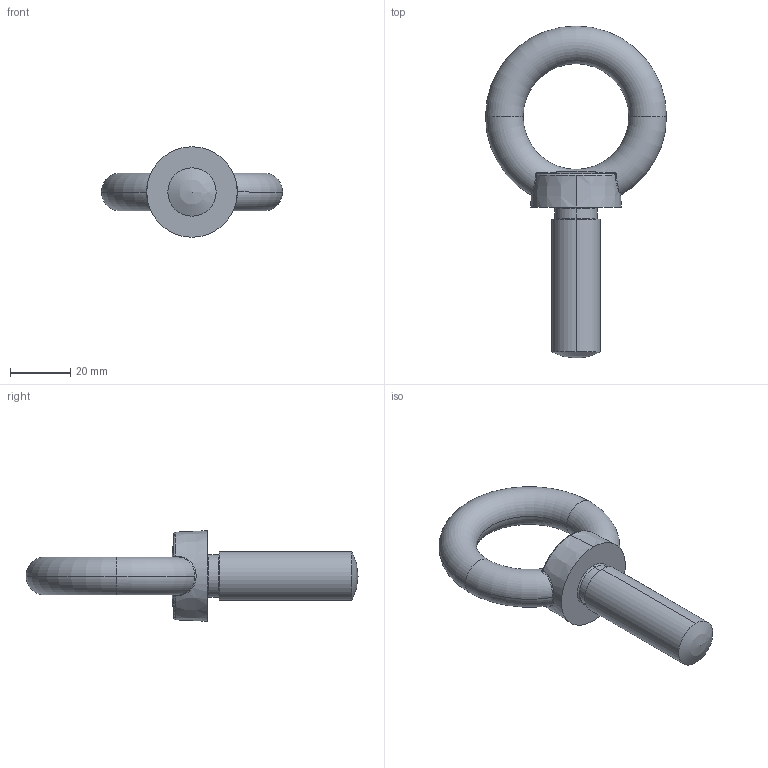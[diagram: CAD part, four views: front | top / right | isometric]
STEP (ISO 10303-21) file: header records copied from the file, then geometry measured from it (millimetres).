
FILE_DESCRIPTION (( 'STEP AP203' ), '1' );
FILE_NAME ('EB-901(S)-1650.STEP', '2013-07-03T08:57:04', ( 'SDS' ), ( 'SDS' ), 'SwSTEP 2.0', 'SolidWorks 2002296', '' );
FILE_SCHEMA (( 'CONFIG_CONTROL_DESIGN' ));
Length unit declared in the file: millimetre
Products named in the file (1): EB-901(S)-1650
Bounding box: 60 x 110 x 30 mm (x, y, z)
Volume: 32676.5 mm3; surface area: 9489.3 mm2
Topology: 1 solids, 1 shells, 31 faces, 72 edges, 42 vertices
Faces by surface type: torus 11, bspline 8, cone 5, cylinder 4, plane 2, sphere 1
Entity records: 8180 total; most frequent: CARTESIAN_POINT 7440, DIRECTION 141, ORIENTED_EDGE 138, EDGE_CURVE 69, AXIS2_PLACEMENT_3D 67, CIRCLE 43, VERTEX_POINT 40, EDGE_LOOP 33
